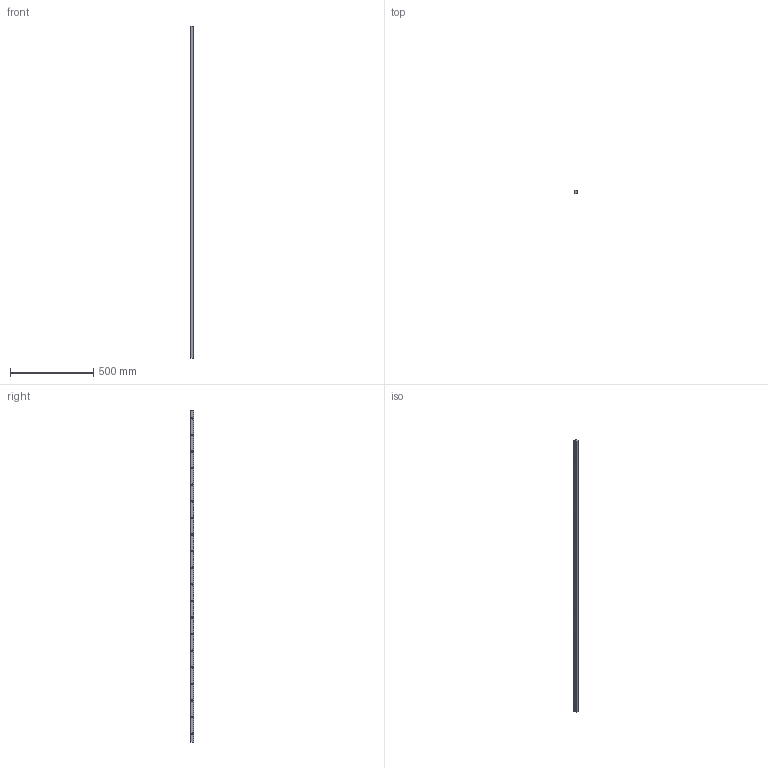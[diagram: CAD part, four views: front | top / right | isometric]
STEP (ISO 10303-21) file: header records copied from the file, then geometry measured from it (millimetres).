
FILE_DESCRIPTION(('STEP AP214'), '1');
FILE_NAME('RS1,5-1520 - Ïðÿìîçóáàÿ ðåéêà', '', ('UNSPECIFIED'), ('UNSPECIFIED'), 'ASCON STEP Converter 1.3', 'ASCON Math Kernel', '');
FILE_SCHEMA(('AUTOMOTIVE_DESIGN { 1 0 10303 214 3 1 1}'));
Length unit declared in the file: millimetre
Products named in the file (1): RS1,5-1520
Bounding box: 15 x 20 x 2000 mm (x, y, z)
Volume: 541184.3 mm3; surface area: 169617.3 mm2
Topology: 1 solids, 1 shells, 1764 faces, 5226 edges, 3484 vertices
Faces by surface type: plane 1724, cylinder 40
Full cylindrical faces by diameter (mm): 5.5 x20, 9 x20
Entity records: 71821 total; most frequent: CARTESIAN_POINT 10435, ORIENTED_EDGE 10372, DIRECTION 8796, EDGE_CURVE 5186, LINE 5106, VECTOR 5106, VERTEX_POINT 3484, EDGE_LOOP 1864
